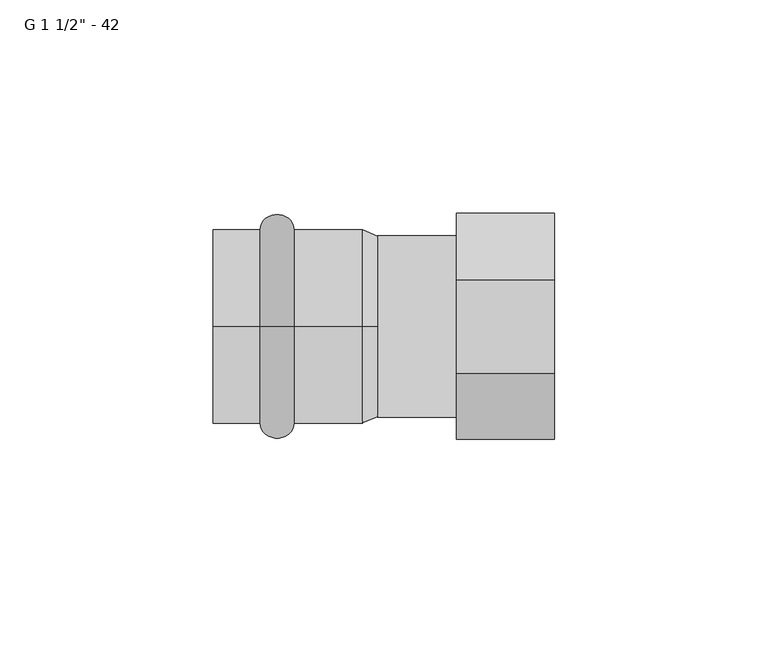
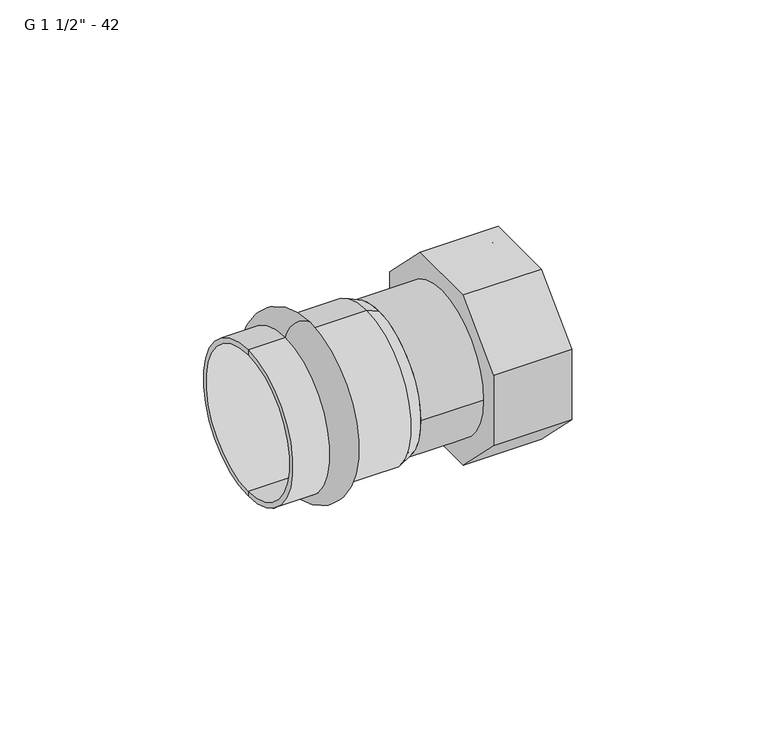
"""IFC4 building model written with IfcOpenShell, lengths in millimetres: pipe fitting geometry."""

from ifc_helpers import new_model, si_unit, point, frame, origin, origin_2d, place, context, project, spatial, polyline, circle_curve, ellipse_curve, trimmed, segment, composite_curve, outline, extrude, source, transform, mapped, element, save
from ifc_brep_helpers import plane_surface, cylinder_surface, revolved_surface, advanced_brep


def pipe_fitting_f1c8faff(model_context):
    return source(origin(), model_context, "Body", "SolidModel", [
        advanced_brep(
        [(-24.0, 0.0, 22.75), (-24.0, 0.0, -22.75), (-16.0, 0.0, -22.75), (-16.0, 0.0, 22.75)],
        [
            (0, 1, circle_curve(frame((-24.0, 0.0, 0.0), z_axis=(-1.0, 0.0, 0.0), x_axis=(0.0, 0.0, -1.0)), 22.75)),
            (1, 2),
            (2, 3, circle_curve(frame((-16.0, 0.0, 0.0), z_axis=(1.0, 0.0, 0.0), x_axis=(0.0, 0.0, -1.0)), 22.75)),
            (3, 0),
            (1, 0, circle_curve(frame((-24.0, 0.0, 0.0), z_axis=(-1.0, 0.0, 0.0), x_axis=(0.0, 0.0, -1.0)), 22.75)),
            (3, 2, circle_curve(frame((-16.0, 0.0, 0.0), z_axis=(1.0, 0.0, 0.0), x_axis=(0.0, 0.0, -1.0)), 22.75)),
            (2, 1, ellipse_curve(frame((-20.0, 0.0, -22.75), z_axis=(0.0, 1.0, 0.0), x_axis=(-1.0, 0.0, 0.0)), 4.0, 3.6)),
            (0, 3, ellipse_curve(frame((-20.0, 0.0, 22.75), z_axis=(0.0, 1.0, 0.0), x_axis=(-1.0, 0.0, 0.0)), 4.0, 3.6)),
        ],
        [
            revolved_surface(polyline([(-16.0, 0.0, -22.75), (-24.0, 0.0, -22.75)]), (4.0, 0.0, 0.0), (1.0, 0.0, 0.0)),
            revolved_surface(trimmed(ellipse_curve(frame((-20.0, 0.0, -22.75), z_axis=(0.0, -1.0, 0.0), x_axis=(-1.0, 0.0, 0.0)), 4.0, 3.6), [point((-24.0, 0.0, -22.75))], [point((-16.0, 0.0, -22.75))], True, "CARTESIAN"), (4.0, 0.0, 0.0), (1.0, 0.0, 0.0)),
        ],
        [
            (0, [[1, 2, 3, 4]]),
            (0, [[5, -4, 6, -2]]),
            (1, [[-3, 7, -1, 8]]),
            (1, [[-6, -8, -5, -7]]),
        ],
    ),
        advanced_brep(
        [(3.5337785, 0.0, 21.25), (3.5337785, 0.0, -21.25), (0.0, 0.0, -22.75), (0.0, 0.0, 22.75), (-35.0, 0.0, 21.25), (-35.0, 0.0, -21.25), (-35.0, 0.0, 22.75), (-35.0, 0.0, -22.75)],
        [
            (0, 1, circle_curve(frame((3.5337785, 0.0, 0.0), z_axis=(-1.0, 0.0, 0.0), x_axis=(0.0, 0.0, -1.0)), 21.25)),
            (1, 2),
            (2, 3, circle_curve(frame((0.0, 0.0, 0.0), z_axis=(1.0, 0.0, 0.0), x_axis=(0.0, 0.0, -1.0)), 22.75)),
            (3, 0),
            (1, 0, circle_curve(frame((3.5337785, 0.0, 0.0), z_axis=(-1.0, 0.0, 0.0), x_axis=(0.0, 0.0, -1.0)), 21.25)),
            (3, 2, circle_curve(frame((0.0, 0.0, 0.0), z_axis=(1.0, 0.0, 0.0), x_axis=(0.0, 0.0, -1.0)), 22.75)),
            (4, 5, circle_curve(frame((-35.0, 0.0, 0.0), z_axis=(-1.0, 0.0, 0.0), x_axis=(0.0, 0.0, -1.0)), 21.25)),
            (5, 1),
            (0, 4),
            (5, 4, circle_curve(frame((-35.0, 0.0, 0.0), z_axis=(-1.0, 0.0, 0.0), x_axis=(0.0, 0.0, -1.0)), 21.25)),
            (6, 7, circle_curve(frame((-35.0, 0.0, 0.0), z_axis=(-1.0, 0.0, 0.0), x_axis=(0.0, 0.0, -1.0)), 22.75)),
            (7, 5),
            (4, 6),
            (7, 6, circle_curve(frame((-35.0, 0.0, 0.0), z_axis=(-1.0, 0.0, 0.0), x_axis=(0.0, 0.0, -1.0)), 22.75)),
            (2, 7),
            (6, 3),
        ],
        [
            revolved_surface(polyline([(0.0, 0.0, -22.75), (3.5337785, 0.0, -21.25)]), (4.0, 0.0, 0.0), (1.0, 0.0, 0.0)),
            revolved_surface(polyline([(3.5337785, 0.0, -21.25), (-35.0, 0.0, -21.25)]), (4.0, 0.0, 0.0), (1.0, 0.0, 0.0)),
            plane_surface(frame((-35.0, 0.0, 0.0), z_axis=(-1.0, 0.0, 0.0), x_axis=(0.0, 0.0, -1.0))),
            cylinder_surface(frame((4.0, 0.0, 0.0), z_axis=(1.0, 0.0, 0.0), x_axis=(0.0, 0.0, -1.0)), 22.75),
        ],
        [
            (0, [[1, 2, 3, 4]]),
            (0, [[5, -4, 6, -2]]),
            (1, [[7, 8, -1, 9]]),
            (1, [[10, -9, -5, -8]]),
            (2, [[11, 12, -7, 13]]),
            (2, [[14, -13, -10, -12]]),
            (3, [[-3, 15, -11, 16]]),
            (3, [[-6, -16, -14, -15]]),
        ],
    ),
        extrude(outline(composite_curve([segment(trimmed(circle_curve(origin_2d(), 21.25), [point((-21.25, 0.0))], [point((21.25, 0.0))], False, "CARTESIAN"), True, "CONTINUOUS"), segment(trimmed(circle_curve(origin_2d(), 21.25), [point((21.25, 0.0))], [point((-21.25, 0.0))], False, "CARTESIAN"), True, "CONTINUOUS")], self_intersect=False)), frame((3.5337785, 0.0, 0.0), z_axis=(1.0, 0.0, 0.0), x_axis=(0.0, 1.0, 0.0)), (0.0, 0.0, 1.0), 18.5),
        advanced_brep(
        [(45.0337785, -26.5, -10.9766594), (22.0337785, -26.5, -10.9766594), (22.0337785, -10.9766594, -26.5), (45.0337785, -10.9766594, -26.5), (22.0337785, 10.9766594, -26.5), (45.0337785, 10.9766594, -26.5), (45.0337785, 26.5, 10.9766594), (22.0337785, 26.5, 10.9766594), (22.0337785, 10.9766594, 26.5), (45.0337785, 10.9766594, 26.5), (22.0337785, -10.9766594, 26.5), (45.0337785, -10.9766594, 26.5), (22.0337785, 26.5, -10.9766594), (45.0337785, 26.5, -10.9766594), (22.0337785, -26.5, 10.9766594), (45.0337785, -26.5, 10.9766594), (28.0337785, -24.0, 0.0), (28.0337785, 24.0, 0.0), (28.0337785, -6.8345238, -16.5), (28.0337785, -16.5, -6.8345238), (28.0337785, -16.5, 6.8345238), (28.0337785, -6.8345238, 16.5), (28.0337785, 6.8345238, 16.5), (28.0337785, 16.5, 6.8345238), (28.0337785, 16.5, -6.8345238), (28.0337785, 6.8345238, -16.5), (45.0337785, 24.0, 0.0), (45.0337785, -24.0, 0.0), (22.0337785, -16.5, -6.8345238), (22.0337785, -6.8345238, -16.5), (22.0337785, 6.8345238, -16.5), (22.0337785, 16.5, -6.8345238), (22.0337785, 16.5, 6.8345238), (22.0337785, 6.8345238, 16.5), (22.0337785, -6.8345238, 16.5), (22.0337785, -16.5, 6.8345238)],
        [
            (0, 1),
            (1, 2),
            (2, 3),
            (3, 0),
            (2, 4),
            (4, 5),
            (5, 3),
            (6, 7),
            (7, 8),
            (8, 9),
            (9, 6),
            (8, 10),
            (10, 11),
            (11, 9),
            (4, 12),
            (12, 13),
            (13, 5),
            (10, 14),
            (14, 15),
            (15, 11),
            (16, 17, circle_curve(frame((28.0337785, 0.0, 0.0), z_axis=(1.0, 0.0, 0.0), x_axis=(0.0, 1.0, 0.0)), 24.0)),
            (17, 16, circle_curve(frame((28.0337785, 0.0, 0.0), z_axis=(1.0, 0.0, 0.0), x_axis=(0.0, 1.0, 0.0)), 24.0)),
            (18, 19),
            (19, 20),
            (20, 21),
            (21, 22),
            (22, 23),
            (23, 24),
            (24, 25),
            (25, 18),
            (17, 26),
            (26, 27, circle_curve(frame((45.0337785, 0.0, 0.0), z_axis=(1.0, 0.0, 0.0), x_axis=(0.0, 1.0, 0.0)), 24.0)),
            (27, 16),
            (27, 26, circle_curve(frame((45.0337785, 0.0, 0.0), z_axis=(1.0, 0.0, 0.0), x_axis=(0.0, 1.0, 0.0)), 24.0)),
            (6, 13),
            (12, 7),
            (15, 0),
            (1, 14),
            (28, 29),
            (29, 30),
            (30, 31),
            (31, 32),
            (32, 33),
            (33, 34),
            (34, 35),
            (35, 28),
            (28, 19),
            (18, 29),
            (25, 30),
            (32, 23),
            (22, 33),
            (21, 34),
            (24, 31),
            (20, 35),
        ],
        [
            plane_surface(frame((22.0337785, -26.5, -10.9766594), z_axis=(0.0, -0.7071067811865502, -0.7071067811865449), x_axis=(0.0, 0.7071067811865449, -0.7071067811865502))),
            plane_surface(frame((22.0337785, -10.9766594, -26.5), z_axis=(0.0, 0.0, -1.0), x_axis=(0.0, 1.0, 0.0))),
            plane_surface(frame((22.0337785, 26.5, 10.9766594), z_axis=(0.0, 0.707106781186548, 0.7071067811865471), x_axis=(0.0, -0.7071067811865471, 0.707106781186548))),
            plane_surface(frame((22.0337785, 10.9766594, 26.5), z_axis=(0.0, 0.0, 1.0), x_axis=(0.0, -1.0, 0.0))),
            plane_surface(frame((22.0337785, 10.9766594, -26.5), z_axis=(0.0, 0.7071067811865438, -0.7071067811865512), x_axis=(0.0, 0.7071067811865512, 0.7071067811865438))),
            plane_surface(frame((22.0337785, -10.9766594, 26.5), z_axis=(0.0, -0.7071067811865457, 0.7071067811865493), x_axis=(0.0, -0.7071067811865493, -0.7071067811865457))),
            plane_surface(frame((28.0337785, 24.0, 0.0), z_axis=(1.0, 0.0, 0.0), x_axis=(0.0, 0.0, -1.0))),
            revolved_surface(polyline([(45.0337785, 24.0, 0.0), (28.0337785, 24.0, 0.0)]), (28.0337785, 0.0, 0.0), (1.0, 0.0, 0.0)),
            plane_surface(frame((22.0337785, 26.5, -10.9766594), z_axis=(0.0, 1.0, 0.0), x_axis=(0.0, 0.0, 1.0))),
            plane_surface(frame((45.0337785, -26.5, 10.9766594), z_axis=(1.0, 0.0, 0.0), x_axis=(0.0, 0.0, -1.0))),
            plane_surface(frame((22.0337785, -16.5, 6.8345238), z_axis=(-1.0, 0.0, 0.0), x_axis=(0.0, 0.0, -1.0))),
            plane_surface(frame((22.0337785, -26.5, 10.9766594), z_axis=(0.0, -1.0, 0.0), x_axis=(0.0, 0.0, -1.0))),
            plane_surface(frame((45.0337785, -16.5, -6.8345238), z_axis=(0.0, 0.7071067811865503, 0.7071067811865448), x_axis=(0.0, 0.7071067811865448, -0.7071067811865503))),
            plane_surface(frame((45.0337785, -6.8345238, -16.5), z_axis=(0.0, 0.0, 1.0), x_axis=(0.0, 1.0, 0.0))),
            plane_surface(frame((45.0337785, 16.5, 6.8345238), z_axis=(0.0, -0.7071067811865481, -0.7071067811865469), x_axis=(0.0, -0.7071067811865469, 0.7071067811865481))),
            plane_surface(frame((45.0337785, 6.8345238, 16.5), z_axis=(0.0, 0.0, -1.0), x_axis=(0.0, -1.0, 0.0))),
            plane_surface(frame((45.0337785, 6.8345238, -16.5), z_axis=(0.0, -0.7071067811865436, 0.7071067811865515), x_axis=(0.0, 0.7071067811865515, 0.7071067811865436))),
            plane_surface(frame((45.0337785, -6.8345238, 16.5), z_axis=(0.0, 0.7071067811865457, -0.7071067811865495), x_axis=(0.0, -0.7071067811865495, -0.7071067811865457))),
            plane_surface(frame((45.0337785, 16.5, -6.8345238), z_axis=(0.0, -1.0, 0.0), x_axis=(0.0, 0.0, 1.0))),
            plane_surface(frame((45.0337785, -16.5, 6.8345238), z_axis=(0.0, 1.0, 0.0), x_axis=(0.0, 0.0, -1.0))),
        ],
        [
            (0, [[1, 2, 3, 4]]),
            (1, [[-3, 5, 6, 7]]),
            (2, [[8, 9, 10, 11]]),
            (3, [[-10, 12, 13, 14]]),
            (4, [[-6, 15, 16, 17]]),
            (5, [[-13, 18, 19, 20]]),
            (6, [[21, 22], [23, 24, 25, 26, 27, 28, 29, 30]]),
            (7, [[-22, 31, 32, 33]]),
            (7, [[-21, -33, 34, -31]]),
            (8, [[-8, 35, -16, 36]]),
            (9, [[-4, -7, -17, -35, -11, -14, -20, 37], [-32, -34]]),
            (10, [[-2, 38, -18, -12, -9, -36, -15, -5], [39, 40, 41, 42, 43, 44, 45, 46]]),
            (11, [[-1, -37, -19, -38]]),
            (12, [[-39, 47, -23, 48]]),
            (13, [[-40, -48, -30, 49]]),
            (14, [[-43, 50, -27, 51]]),
            (15, [[-44, -51, -26, 52]]),
            (16, [[-41, -49, -29, 53]]),
            (17, [[-45, -52, -25, 54]]),
            (18, [[-42, -53, -28, -50]]),
            (19, [[-46, -54, -24, -47]]),
        ],
    ),
    ])


if __name__ == "__main__":
    model = new_model("IFC4")
    model_context = context("Model", 3, world=origin())
    ifc_project = project(units=[si_unit("LENGTHUNIT", "METRE", prefix="MILLI")], contexts=[model_context])
    site = spatial("IfcSite", under=ifc_project)
    building = spatial("IfcBuilding", under=site)
    placement = place(None, origin())
    pipe_fitting_shape = pipe_fitting_f1c8faff(model_context)
    element("IfcPipeFitting", 1, ObjectType="РЕХАУ_Пресс Муфта с накидной гайкой : G 1 1/2\" - 42", at=placement, inside=building, context=model_context, shape_type="MappedRepresentation", body=[
        mapped(pipe_fitting_shape, transform((0.0, 0.0, 0.0), x_axis=(1.0, 0.0, 0.0), y_axis=(0.0, 1.0, 0.0), z_axis=(0.0, 0.0, 1.0))),
    ])
    save(model, "model.ifc")
